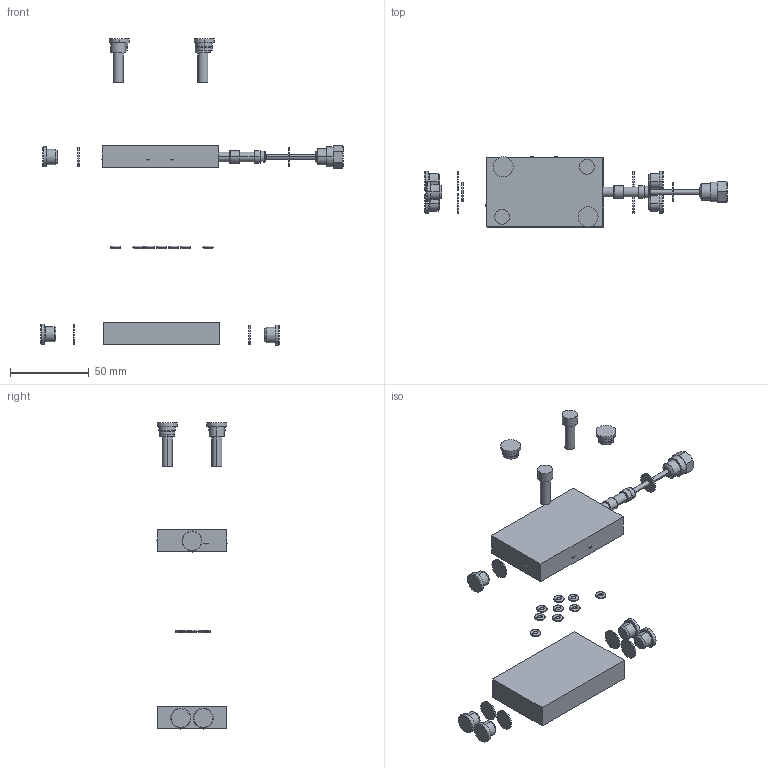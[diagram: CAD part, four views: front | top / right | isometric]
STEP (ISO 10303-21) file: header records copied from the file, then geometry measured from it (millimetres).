
FILE_DESCRIPTION((''),'2;1');
FILE_NAME('562654-EN-G_PRT','2022-02-14T14:28:57',('qtmwp1'),(''),'CREO PARAMETRIC BY PTC INC, 2021072','CREO PARAMETRIC BY PTC INC, 2021072','');
FILE_SCHEMA(('CONFIG_CONTROL_DESIGN'));
Length unit declared in the file: inch
Products named in the file (1): 562654-EN-G_PRT
Bounding box: 191.9 x 45.09 x 194.47 mm (x, y, z)
Surface area: 30915.7 mm2 (no closed solid volume)
Topology: 0 solids, 69 shells, 290 faces, 603 edges, 370 vertices
Faces by surface type: plane 94, cylinder 88, torus 54, cone 42, sphere 12
Entity records: 7515 total; most frequent: DIRECTION 1528, CARTESIAN_POINT 1336, ORIENTED_EDGE 1026, AXIS2_PLACEMENT_3D 673, EDGE_CURVE 579, CIRCLE 383, VERTEX_POINT 370, EDGE_LOOP 290
